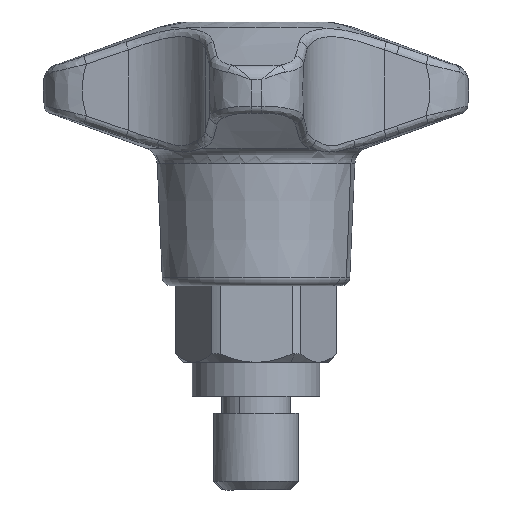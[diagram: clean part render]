
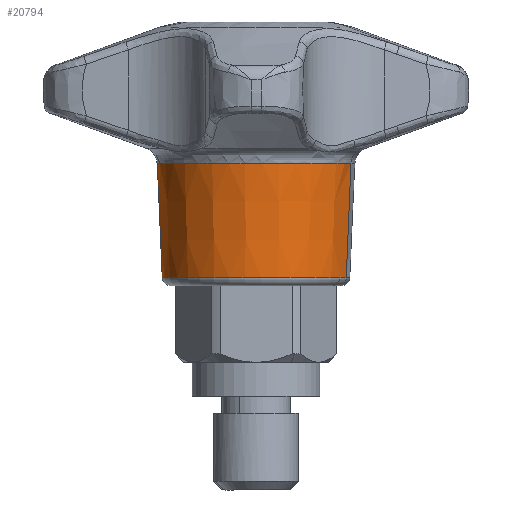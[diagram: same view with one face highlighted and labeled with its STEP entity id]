
A CAD part, left-side view. The second image highlights one B-rep face of the part: STEP entity #20794.
In plain terms, the highlighted conical face has half-angle 2.5 degrees and reference radius 11 mm.
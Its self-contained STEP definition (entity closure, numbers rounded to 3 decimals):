
#20630=CARTESIAN_POINT('Vertex',(-5.575,10.205,14.396)) ;
#20637=CARTESIAN_POINT('Vertex',(5.575,-10.205,14.396)) ;
#20723=CARTESIAN_POINT('Axis2P3D Location',(0.,0.,14.396)) ;
#20744=CARTESIAN_POINT('Line Origine',(10458.761,-19144.634,499398.14)) ;
#20748=CARTESIAN_POINT('Vertex',(5.294,-9.69,0.956)) ;
#20751=CARTESIAN_POINT('Line Origine',(-10458.761,19144.634,499398.14)) ;
#20755=CARTESIAN_POINT('Vertex',(-5.294,9.69,0.956)) ;
#20770=CARTESIAN_POINT('Axis2P3D Location',(0.,0.,0.)) ;
#20775=CARTESIAN_POINT('Axis2P3D Location',(0.,0.,0.956)) ;
#20779=CARTESIAN_POINT('Vertex',(-3.409,10.502,0.956)) ;
#20782=CARTESIAN_POINT('Axis2P3D Location',(0.,0.,0.956)) ;
#20724=DIRECTION('Axis2P3D Direction',(0.,0.,1.)) ;
#20745=DIRECTION('Vector Direction',(0.021,-0.038,0.999)) ;
#20752=DIRECTION('Vector Direction',(-0.021,0.038,0.999)) ;
#20771=DIRECTION('Axis2P3D Direction',(0.,0.,1.)) ;
#20772=DIRECTION('Axis2P3D XDirection',(0.479,-0.878,0.)) ;
#20776=DIRECTION('Axis2P3D Direction',(0.,0.,1.)) ;
#20783=DIRECTION('Axis2P3D Direction',(0.,0.,1.)) ;
#20725=AXIS2_PLACEMENT_3D('Circle Axis2P3D',#20723,#20724,$) ;
#20773=AXIS2_PLACEMENT_3D('Cone Axis2P3D',#20770,#20771,#20772) ;
#20777=AXIS2_PLACEMENT_3D('Circle Axis2P3D',#20775,#20776,$) ;
#20784=AXIS2_PLACEMENT_3D('Circle Axis2P3D',#20782,#20783,$) ;
#20788=ORIENTED_EDGE('',*,*,#20757,.T.) ;
#20789=ORIENTED_EDGE('',*,*,#20727,.F.) ;
#20790=ORIENTED_EDGE('',*,*,#20750,.F.) ;
#20791=ORIENTED_EDGE('',*,*,#20781,.T.) ;
#20792=ORIENTED_EDGE('',*,*,#20786,.T.) ;
#20746=VECTOR('Line Direction',#20745,1.) ;
#20753=VECTOR('Line Direction',#20752,1.) ;
#20794=ADVANCED_FACE('PartBody',(#20793),#20774,.T.) ;
#20726=CIRCLE('generated circle',#20725,11.629) ;
#20778=CIRCLE('generated circle',#20777,11.042) ;
#20785=CIRCLE('generated circle',#20784,11.042) ;
#20774=CONICAL_SURFACE('Cone',#20773,11.,0.044) ;
#20727=EDGE_CURVE('',#20638,#20631,#20726,.T.) ;
#20750=EDGE_CURVE('',#20749,#20638,#20747,.T.) ;
#20757=EDGE_CURVE('',#20756,#20631,#20754,.T.) ;
#20781=EDGE_CURVE('',#20749,#20780,#20778,.T.) ;
#20786=EDGE_CURVE('',#20780,#20756,#20785,.T.) ;
#20787=EDGE_LOOP('',(#20788,#20789,#20790,#20791,#20792)) ;
#20793=FACE_OUTER_BOUND('',#20787,.T.) ;
#20747=LINE('Line',#20744,#20746) ;
#20754=LINE('Line',#20751,#20753) ;
#20631=VERTEX_POINT('',#20630) ;
#20638=VERTEX_POINT('',#20637) ;
#20749=VERTEX_POINT('',#20748) ;
#20756=VERTEX_POINT('',#20755) ;
#20780=VERTEX_POINT('',#20779) ;
